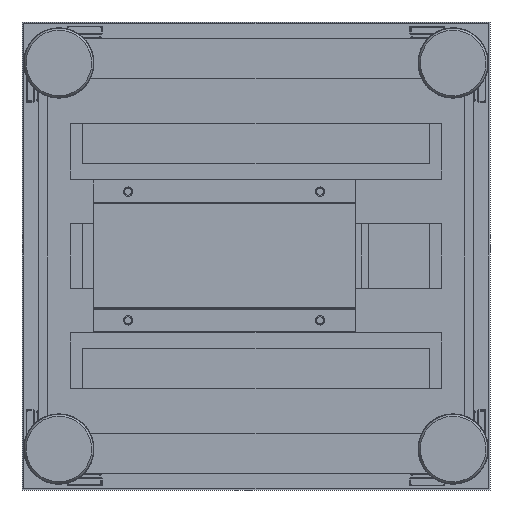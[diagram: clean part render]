
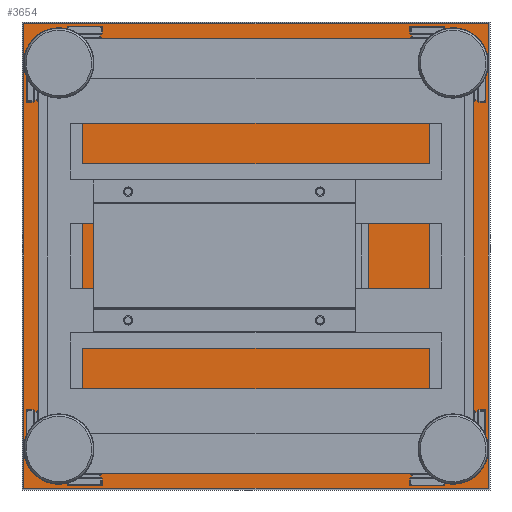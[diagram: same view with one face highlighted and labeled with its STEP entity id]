
A CAD part, front view. The second image highlights one B-rep face of the part: STEP entity #3654.
In plain terms, the highlighted planar face has unit normal (0, -1, 0).
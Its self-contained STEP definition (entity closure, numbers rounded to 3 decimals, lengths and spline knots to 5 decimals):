
#3654=ADVANCED_FACE('204:3049',(#5785),#5786,.F.);
#5785=FACE_OUTER_BOUND('',#11637,.T.);
#5786=PLANE('',#11638);
#11637=EDGE_LOOP('',(#14716,#14717,#14718,#14719));
#11638=AXIS2_PLACEMENT_3D('',#14720,#14721,#14722);
#14716=ORIENTED_EDGE('',*,*,#21632,.T.);
#14717=ORIENTED_EDGE('',*,*,#21633,.T.);
#14718=ORIENTED_EDGE('',*,*,#21634,.F.);
#14719=ORIENTED_EDGE('',*,*,#21635,.F.);
#14720=CARTESIAN_POINT('',(0.0,-0.0015,0.0));
#14721=DIRECTION('',(0.0,1.0,0.0));
#14722=DIRECTION('',(0.0,0.0,1.0));
#21632=EDGE_CURVE('204:3112',#25950,#25951,#25952,.T.);
#21633=EDGE_CURVE('204:3115',#25951,#25953,#25954,.T.);
#21634=EDGE_CURVE('204:3118',#25955,#25953,#25956,.F.);
#21635=EDGE_CURVE('204:3121',#25950,#25955,#25957,.F.);
#25950=VERTEX_POINT('',#31506);
#25951=VERTEX_POINT('',#31507);
#25952=LINE('',#31508,#31509);
#25953=VERTEX_POINT('',#31510);
#25954=LINE('',#31511,#31512);
#25955=VERTEX_POINT('',#31513);
#25956=LINE('',#31514,#31515);
#25957=LINE('',#31516,#31517);
#31506=CARTESIAN_POINT('',(0.1985,-0.0015,-0.1985));
#31507=CARTESIAN_POINT('',(0.1985,-0.0015,0.1985));
#31508=CARTESIAN_POINT('',(0.1985,-0.0015,0.));
#31509=VECTOR('',#34478,1.0);
#31510=CARTESIAN_POINT('',(-0.1985,-0.0015,0.1985));
#31511=CARTESIAN_POINT('',(0.,-0.0015,0.1985));
#31512=VECTOR('',#34479,1.0);
#31513=CARTESIAN_POINT('',(-0.1985,-0.0015,-0.1985));
#31514=CARTESIAN_POINT('',(-0.1985,-0.0015,0.));
#31515=VECTOR('',#34480,1.0);
#31516=CARTESIAN_POINT('',(0.,-0.0015,-0.1985));
#31517=VECTOR('',#34481,1.0);
#34478=DIRECTION('',(0.0,0.0,1.0));
#34479=DIRECTION('',(-1.0,0.0,0.));
#34480=DIRECTION('',(0.0,0.0,-1.0));
#34481=DIRECTION('',(1.0,-0.0,0.));
